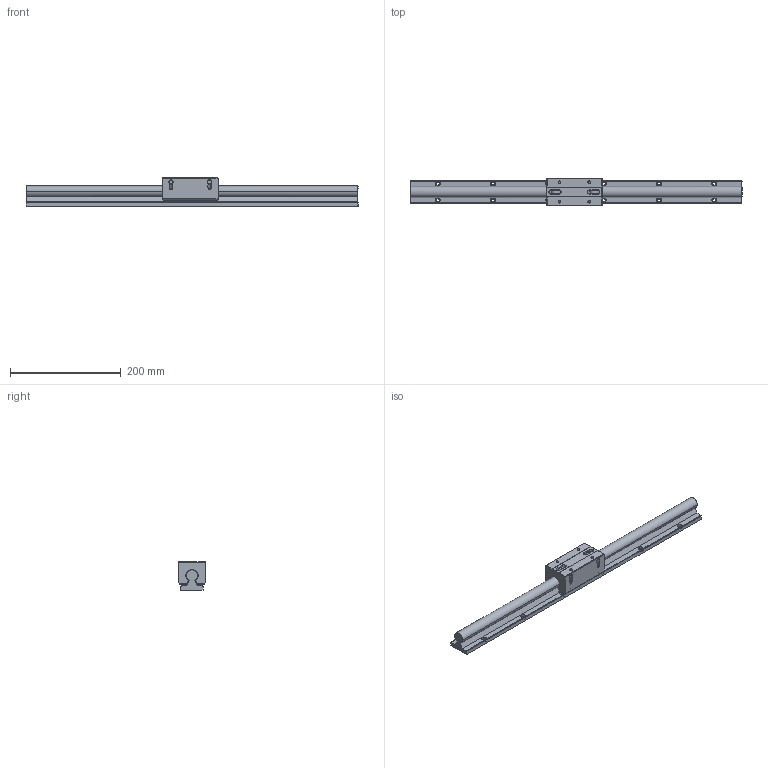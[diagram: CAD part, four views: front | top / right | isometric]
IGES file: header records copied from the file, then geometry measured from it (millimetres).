
Global section: file name: No Iges File Name specified; native system: AutoDesk Inventor R10; preprocessor: AutoDesk Inventor Iges Exporter R10; author: No Author specified; organization: No Organization specified; date: 20101222.161019; units: millimetre
Bounding box: 600 x 50 x 52 mm (x, y, z)
Surface area: 127407.4 mm2 (no closed solid volume)
Topology: 0 solids, 0 shells, 360 faces, 2730 edges, 2710 vertices
Faces by surface type: bspline 360
